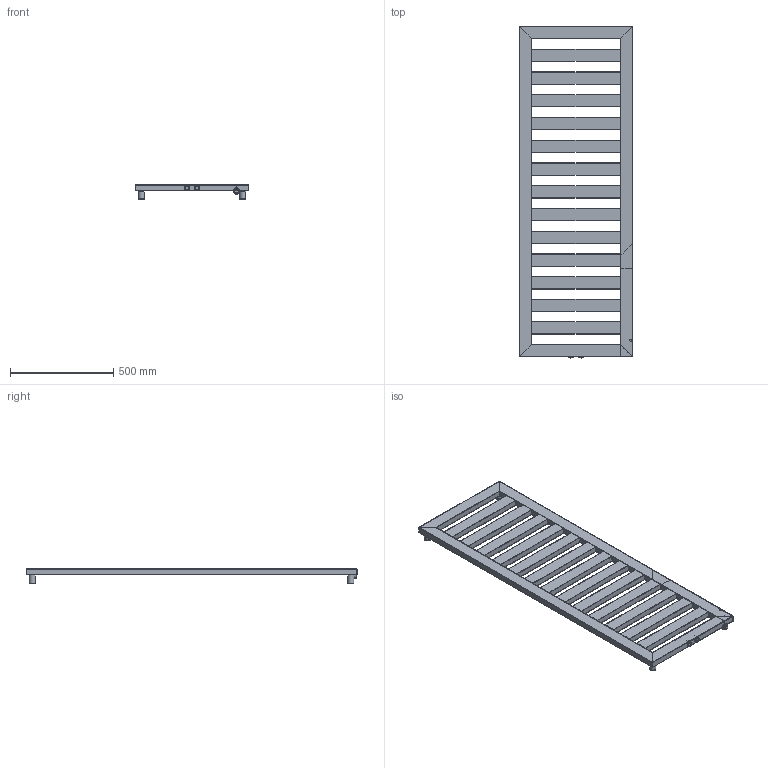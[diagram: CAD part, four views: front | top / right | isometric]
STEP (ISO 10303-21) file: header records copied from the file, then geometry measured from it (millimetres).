
FILE_DESCRIPTION( ( 'Unknown' ), '1' );
FILE_NAME( 'D:/Alplast sp. j/Witryna zespoBu - Projekty/Archiwum/Grzejniki Archiwum/Projekty/DESIGN PROGRAM/GRZEJNIK ROD/ROD 3.stp', 'Unknown', ( 'Unknown' ), ( 'Unknown' ), 'PSStep 10.1', 'Unknown', ' ' );
FILE_SCHEMA( ( 'AUTOMOTIVE_DESIGN { 1 0 10303 214 1 1 1 1 }' ) );
Length unit declared in the file: millimetre
Products named in the file (25): Assem1; mufa prz³aczeniowa; mufa prz³aczeniowa-oa0; kana³ pionowy  60x10   L1600; kana³ pionowy  60x10   L1600-oa1; kana³ poziomu  60x10   L430; kana³ poziomu  60x10   L430-oa2; kana³ poziomu  60x10   L430-oa3; kana³ poziomu  60x10   L430-oa4; kana³ poziomu  60x10   L430-oa5; kana³ poziomu  60x10   L430-oa6; kana³ poziomu  60x10   L430-oa7; kana³ poziomu  60x10   L430-oa8; kana³ poziomu  60x10   L430-oa9; kana³ poziomu  60x10   L430-oa10; kana³ poziomu  60x10   L430-oa11; kana³ poziomu  60x10   L430-oa12; kana³ poziomu  60x10   L430-oa13; kana³ poziomy    dolny  60x10   L550; kana³ poziomy    górny  60x10   L550; sworzen wieszaka; tuleja wieszaka; tuleja wieszaka-oa14; tuleja wieszaka-oa15; tuleja wieszaka-oa16
Bounding box: 550 x 1605 x 70.02 mm (x, y, z)
Volume: 5209457.7 mm3; surface area: 6755567.7 mm2
Topology: 51 solids, 51 shells, 951 faces, 2599 edges, 1694 vertices
Faces by surface type: plane 638, cylinder 283, cone 22, bspline 8
Full cylindrical faces by diameter (mm): 4.917 x8, 10 x2, 18.974 x4, 20 x5, 22 x8, 25 x8, 30 x8
Entity records: 19618 total; most frequent: CARTESIAN_POINT 3372, ORIENTED_EDGE 2496, DIRECTION 2458, EDGE_CURVE 1248, LINE 922, VECTOR 922, VERTEX_POINT 830, AXIS2_PLACEMENT_3D 768
